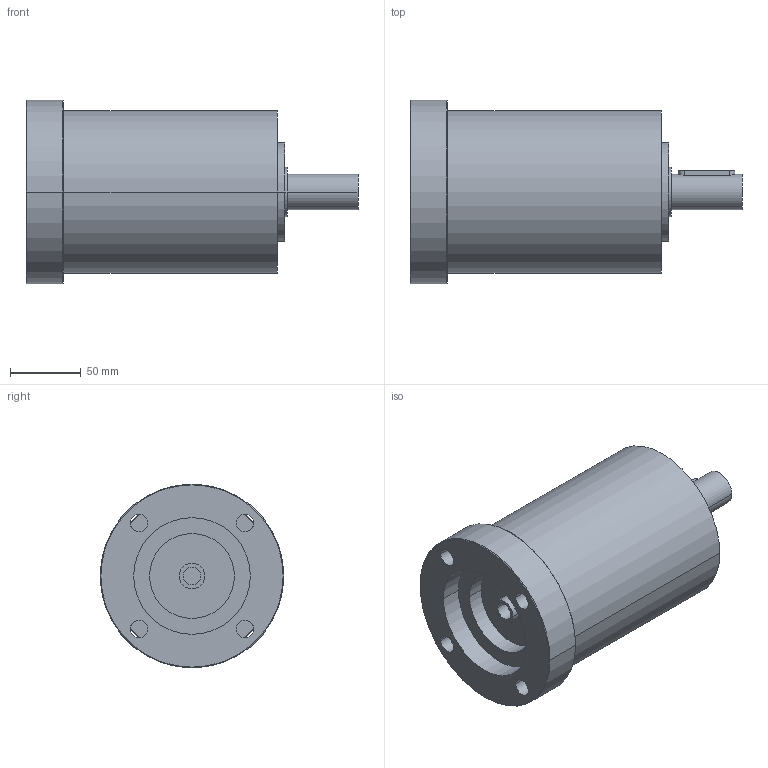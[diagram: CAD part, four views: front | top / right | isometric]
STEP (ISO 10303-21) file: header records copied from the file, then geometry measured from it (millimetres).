
FILE_DESCRIPTION(('CoCreate Modeling STEP Export'),'2;1');
FILE_NAME('GPR125_ig-9-12-16-20-28-35_25_B14_12.7_P21.stp','2014-08-26T14:09:29',(''),(''),'CoCreate Modeling STEP processor for AP214 (Solid Model)','CoCreate Modeling 16.00C 25-Feb-2009 (C) Parametric Technology GmbH','');
FILE_SCHEMA(('AUTOMOTIVE_DESIGN { 1 0 10303 214 1 1 1 1 }'));
Length unit declared in the file: millimetre
Products named in the file (2): GPR125_ig-9-12-16-20-28-35_25_B14_12.7_P21
Assembly tree (1 placements, depth 2):
  GPR125_ig-9-12-16-20-28-35_25_B14_12.7_P21
    GPR125_ig-9-12-16-20-28-35_25_B14_12.7_P21
Bounding box: 234.9 x 130 x 130 mm (x, y, z)
Volume: 1838115.7 mm3; surface area: 111845 mm2
Topology: 1 solids, 1 shells, 67 faces, 176 edges, 118 vertices
Faces by surface type: cylinder 38, plane 21, cone 8
Entity records: 1764 total; most frequent: ORIENTED_EDGE 348, CARTESIAN_POINT 328, DIRECTION 232, EDGE_CURVE 174, VERTEX_POINT 118, AXIS2_PLACEMENT_3D 90, EDGE_LOOP 84, FACE_OUTER_BOUND 67
